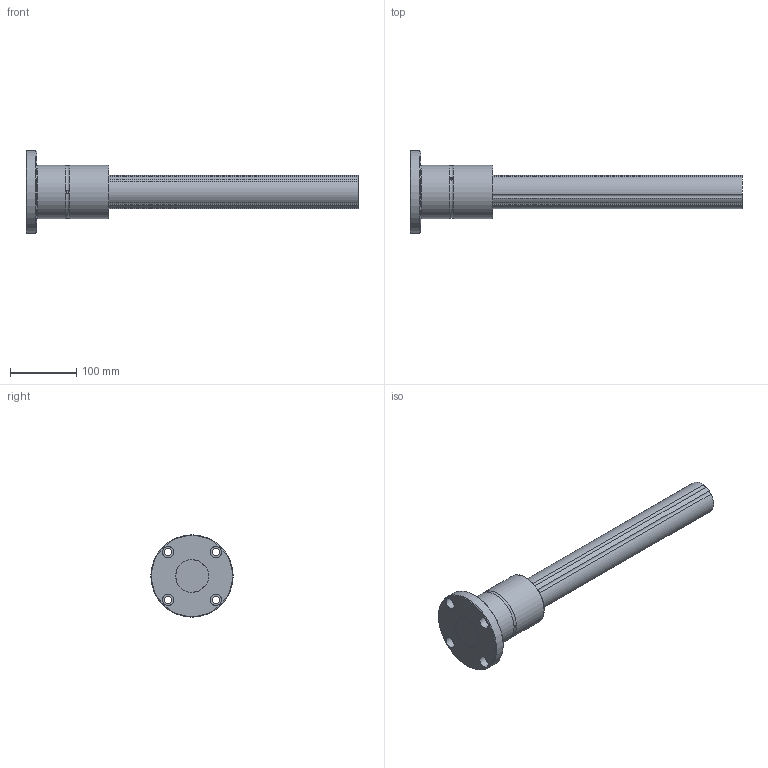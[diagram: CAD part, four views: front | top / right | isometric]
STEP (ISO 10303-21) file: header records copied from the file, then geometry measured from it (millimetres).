
FILE_DESCRIPTION(/* description */ ('STEP AP214'),/* implementation_level */ '2;1');
FILE_NAME(/* name */ 'LF501500(00)',/* time_stamp */ '2024-09-05T14:36:36+02:00',/* author */ ('License CC BY-ND 4.0'),/* organization */ ('CADENAS'),/* preprocessor_version */ 'ST-DEVELOPER v19.3',/* originating_system */ 'PARTsolutions',/* authorisation */ ' ');
FILE_SCHEMA (('AUTOMOTIVE_DESIGN {1 0 10303 214 3 1 1}'));
Length unit declared in the file: millimetre
Products named in the file (3): LF501500(00); LF 50500 FTLFShaft; LF 50 FTLF Cylindar
Assembly tree (2 placements, depth 2):
  LF501500(00)
    LF 50500 FTLFShaft
    LF 50 FTLF Cylindar
Bounding box: 500 x 124 x 124 mm (x, y, z)
Volume: 1451117.2 mm3; surface area: 160806.6 mm2
Topology: 2 solids, 2 shells, 52 faces, 130 edges, 87 vertices
Faces by surface type: cylinder 38, plane 9, torus 3, cone 2
Full cylindrical faces by diameter (mm): 4 x3, 11 x4, 17.5 x4, 80 x2, 124 x1
Entity records: 1610 total; most frequent: CARTESIAN_POINT 316, DIRECTION 282, ORIENTED_EDGE 208, AXIS2_PLACEMENT_3D 129, EDGE_CURVE 104, EDGE_LOOP 92, FACE_BOUND 92, VERTEX_POINT 80
